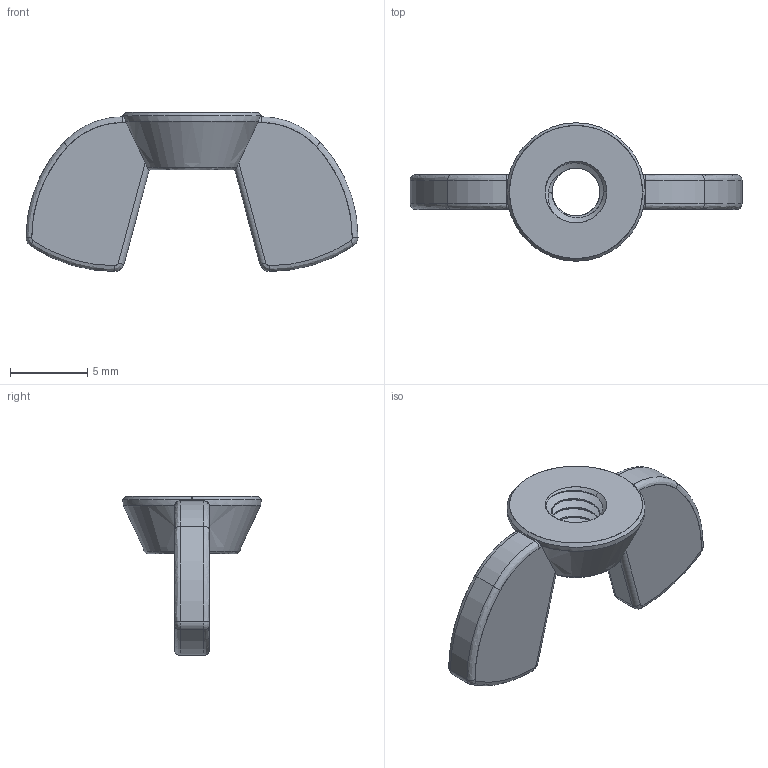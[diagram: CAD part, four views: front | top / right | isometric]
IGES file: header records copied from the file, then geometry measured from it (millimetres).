
Start section: SolidWorks IGES file using analytic representation for surfaces
Global section: file name: C:\Users\Home\Desktop\Wing Nuts Metric\WING NUT M4 x 0.7mm Thread.IGS; native system: SolidWorks 2014; preprocessor: SolidWorks 2014; author: Home; date: 170501.205809; units: millimetre
Bounding box: 21.5 x 8.96 x 10.3 mm (x, y, z)
Surface area: 537.7 mm2 (no closed solid volume)
Topology: 0 solids, 0 shells, 89 faces, 1233 edges, 1233 vertices
Faces by surface type: revolution 51, bspline 38
